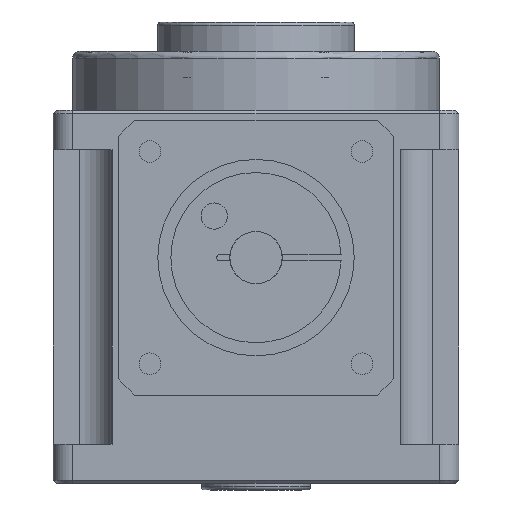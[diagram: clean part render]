
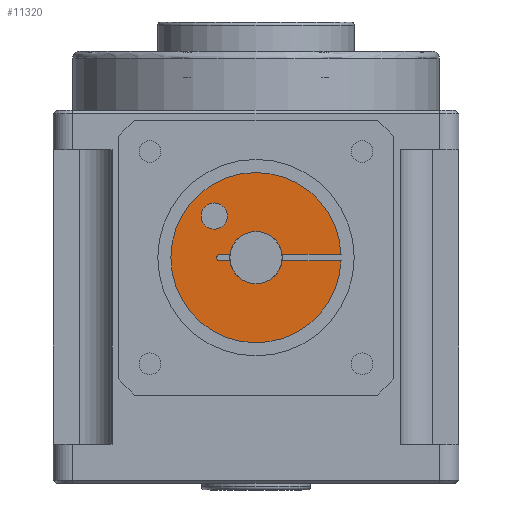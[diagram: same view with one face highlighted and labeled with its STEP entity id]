
A CAD part, front view. The second image highlights one B-rep face of the part: STEP entity #11320.
In plain terms, the highlighted planar face has unit normal (0, -1, 0) as drawn and (0, 0, -1) by its records, which use the part's own axes.
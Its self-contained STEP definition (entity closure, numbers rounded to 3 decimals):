
#54 = VERTEX_POINT ( 'NONE', #6125 ) ;
#713 = VERTEX_POINT ( 'NONE', #13847 ) ;
#890 = ORIENTED_EDGE ( 'NONE', *, *, #7655, .T. ) ;
#972 = ORIENTED_EDGE ( 'NONE', *, *, #11745, .T. ) ;
#1242 = CARTESIAN_POINT ( 'NONE',  ( -6.378, -6.35, -70. ) ) ;
#1542 = LINE ( 'NONE', #8792, #11111 ) ;
#1631 = DIRECTION ( 'NONE',  ( -1., 0., 0. ) ) ;
#1997 = DIRECTION ( 'NONE',  ( 0., 0., -1. ) ) ;
#2175 = CIRCLE ( 'NONE', #4572, 13. ) ;
#2359 = CARTESIAN_POINT ( 'NONE',  ( -5.5, 0.5, -70. ) ) ;
#2389 = VERTEX_POINT ( 'NONE', #4377 ) ;
#2762 = VECTOR ( 'NONE', #4237, 1000. ) ;
#2781 = CARTESIAN_POINT ( 'NONE',  ( -5.5, -0.5, -70. ) ) ;
#2819 = CARTESIAN_POINT ( 'NONE',  ( 0., 0.5, -70. ) ) ;
#2859 = ORIENTED_EDGE ( 'NONE', *, *, #7055, .F. ) ;
#2871 = EDGE_CURVE ( 'NONE', #3052, #7421, #8455, .T. ) ;
#3052 = VERTEX_POINT ( 'NONE', #14020 ) ;
#3054 = DIRECTION ( 'NONE',  ( -1., 0., 0. ) ) ;
#3064 = EDGE_CURVE ( 'NONE', #11200, #5114, #5003, .T. ) ;
#3138 = AXIS2_PLACEMENT_3D ( 'NONE', #5295, #11072, #11143 ) ;
#3454 = ORIENTED_EDGE ( 'NONE', *, *, #7516, .F. ) ;
#3509 = CARTESIAN_POINT ( 'NONE',  ( -4.378, -6.35, -70. ) ) ;
#3796 = DIRECTION ( 'NONE',  ( 0., 0., -1. ) ) ;
#3869 = DIRECTION ( 'NONE',  ( -1., 0., 0. ) ) ;
#3983 = CIRCLE ( 'NONE', #9996, 4. ) ;
#4065 = EDGE_CURVE ( 'NONE', #7421, #3052, #4132, .T. ) ;
#4132 = CIRCLE ( 'NONE', #8981, 2. ) ;
#4171 = DIRECTION ( 'NONE',  ( 0., 0., -1. ) ) ;
#4237 = DIRECTION ( 'NONE',  ( -1., 0., 0. ) ) ;
#4310 = DIRECTION ( 'NONE',  ( -1., 0., 0. ) ) ;
#4314 = FACE_OUTER_BOUND ( 'NONE', #13673, .T. ) ;
#4318 = DIRECTION ( 'NONE',  ( -1., 0., 0. ) ) ;
#4377 = CARTESIAN_POINT ( 'NONE',  ( 12.99, -0.5, -70. ) ) ;
#4427 = EDGE_CURVE ( 'NONE', #713, #11200, #12868, .T. ) ;
#4572 = AXIS2_PLACEMENT_3D ( 'NONE', #14556, #4171, #3054 ) ;
#4639 = CARTESIAN_POINT ( 'NONE',  ( 3.969, 0.5, -70. ) ) ;
#4940 = DIRECTION ( 'NONE',  ( 0., 0., -1. ) ) ;
#5003 = LINE ( 'NONE', #14246, #10890 ) ;
#5114 = VERTEX_POINT ( 'NONE', #2781 ) ;
#5295 = CARTESIAN_POINT ( 'NONE',  ( -5.5, 0., -70. ) ) ;
#5390 = EDGE_LOOP ( 'NONE', ( #12876, #8849 ) ) ;
#5400 = CIRCLE ( 'NONE', #13397, 0.5 ) ;
#5709 = ORIENTED_EDGE ( 'NONE', *, *, #3064, .F. ) ;
#5845 = DIRECTION ( 'NONE',  ( -1., 0., 0. ) ) ;
#5936 = EDGE_CURVE ( 'NONE', #5114, #8184, #5400, .T. ) ;
#5980 = CARTESIAN_POINT ( 'NONE',  ( -5.5, 0., -70. ) ) ;
#6125 = CARTESIAN_POINT ( 'NONE',  ( 12.99, 0.5, -70. ) ) ;
#6206 = VERTEX_POINT ( 'NONE', #2359 ) ;
#6854 = AXIS2_PLACEMENT_3D ( 'NONE', #7518, #1997, #14707 ) ;
#7055 = EDGE_CURVE ( 'NONE', #9390, #9833, #3983, .T. ) ;
#7421 = VERTEX_POINT ( 'NONE', #3509 ) ;
#7516 = EDGE_CURVE ( 'NONE', #2389, #713, #1542, .T. ) ;
#7518 = CARTESIAN_POINT ( 'NONE',  ( 0., 0., -70. ) ) ;
#7651 = EDGE_CURVE ( 'NONE', #8184, #6206, #9171, .T. ) ;
#7655 = EDGE_CURVE ( 'NONE', #2389, #54, #2175, .T. ) ;
#7662 = DIRECTION ( 'NONE',  ( -1., 0., 0. ) ) ;
#7685 = ORIENTED_EDGE ( 'NONE', *, *, #5936, .F. ) ;
#7728 = FACE_BOUND ( 'NONE', #5390, .T. ) ;
#8184 = VERTEX_POINT ( 'NONE', #10409 ) ;
#8360 = DIRECTION ( 'NONE',  ( -1., 0., 0. ) ) ;
#8403 = DIRECTION ( 'NONE',  ( -1., 0., 0. ) ) ;
#8440 = ORIENTED_EDGE ( 'NONE', *, *, #12583, .T. ) ;
#8455 = CIRCLE ( 'NONE', #9414, 2. ) ;
#8652 = DIRECTION ( 'NONE',  ( 0., 0., -1. ) ) ;
#8792 = CARTESIAN_POINT ( 'NONE',  ( 0., -0.5, -70. ) ) ;
#8849 = ORIENTED_EDGE ( 'NONE', *, *, #4065, .F. ) ;
#8873 = CARTESIAN_POINT ( 'NONE',  ( 0., 0.5, -70. ) ) ;
#8981 = AXIS2_PLACEMENT_3D ( 'NONE', #1242, #9042, #5845 ) ;
#9042 = DIRECTION ( 'NONE',  ( 0., 0., -1. ) ) ;
#9171 = CIRCLE ( 'NONE', #3138, 0.5 ) ;
#9390 = VERTEX_POINT ( 'NONE', #11512 ) ;
#9414 = AXIS2_PLACEMENT_3D ( 'NONE', #10623, #4940, #8360 ) ;
#9423 = ORIENTED_EDGE ( 'NONE', *, *, #4427, .F. ) ;
#9637 = CARTESIAN_POINT ( 'NONE',  ( 0., 0., -70. ) ) ;
#9833 = VERTEX_POINT ( 'NONE', #4639 ) ;
#9927 = CARTESIAN_POINT ( 'NONE',  ( 0., 0., -70. ) ) ;
#9996 = AXIS2_PLACEMENT_3D ( 'NONE', #9637, #8652, #1631 ) ;
#10409 = CARTESIAN_POINT ( 'NONE',  ( -6., 0., -70. ) ) ;
#10623 = CARTESIAN_POINT ( 'NONE',  ( -6.378, -6.35, -70. ) ) ;
#10701 = CARTESIAN_POINT ( 'NONE',  ( -3.969, -0.5, -70. ) ) ;
#10890 = VECTOR ( 'NONE', #3869, 1000. ) ;
#10976 = VECTOR ( 'NONE', #4318, 1000. ) ;
#11072 = DIRECTION ( 'NONE',  ( 0., 0., -1. ) ) ;
#11074 = DIRECTION ( 'NONE',  ( 0., 0., -1. ) ) ;
#11111 = VECTOR ( 'NONE', #4310, 1000. ) ;
#11143 = DIRECTION ( 'NONE',  ( -1., 0., 0. ) ) ;
#11200 = VERTEX_POINT ( 'NONE', #10701 ) ;
#11320 = ADVANCED_FACE ( 'NONE', ( #7728, #4314 ), #12218, .T. ) ;
#11512 = CARTESIAN_POINT ( 'NONE',  ( -3.969, 0.5, -70. ) ) ;
#11745 = EDGE_CURVE ( 'NONE', #54, #9833, #14401, .T. ) ;
#12218 = PLANE ( 'NONE',  #6854 ) ;
#12583 = EDGE_CURVE ( 'NONE', #9390, #6206, #14710, .T. ) ;
#12868 = CIRCLE ( 'NONE', #14810, 4. ) ;
#12876 = ORIENTED_EDGE ( 'NONE', *, *, #2871, .F. ) ;
#13397 = AXIS2_PLACEMENT_3D ( 'NONE', #5980, #3796, #8403 ) ;
#13673 = EDGE_LOOP ( 'NONE', ( #890, #972, #2859, #8440, #13980, #7685, #5709, #9423, #3454 ) ) ;
#13847 = CARTESIAN_POINT ( 'NONE',  ( 3.969, -0.5, -70. ) ) ;
#13980 = ORIENTED_EDGE ( 'NONE', *, *, #7651, .F. ) ;
#14020 = CARTESIAN_POINT ( 'NONE',  ( -8.378, -6.35, -70. ) ) ;
#14246 = CARTESIAN_POINT ( 'NONE',  ( 0., -0.5, -70. ) ) ;
#14401 = LINE ( 'NONE', #2819, #2762 ) ;
#14556 = CARTESIAN_POINT ( 'NONE',  ( 0., 0., -70. ) ) ;
#14707 = DIRECTION ( 'NONE',  ( -1., 0., 0. ) ) ;
#14710 = LINE ( 'NONE', #8873, #10976 ) ;
#14810 = AXIS2_PLACEMENT_3D ( 'NONE', #9927, #11074, #7662 ) ;
